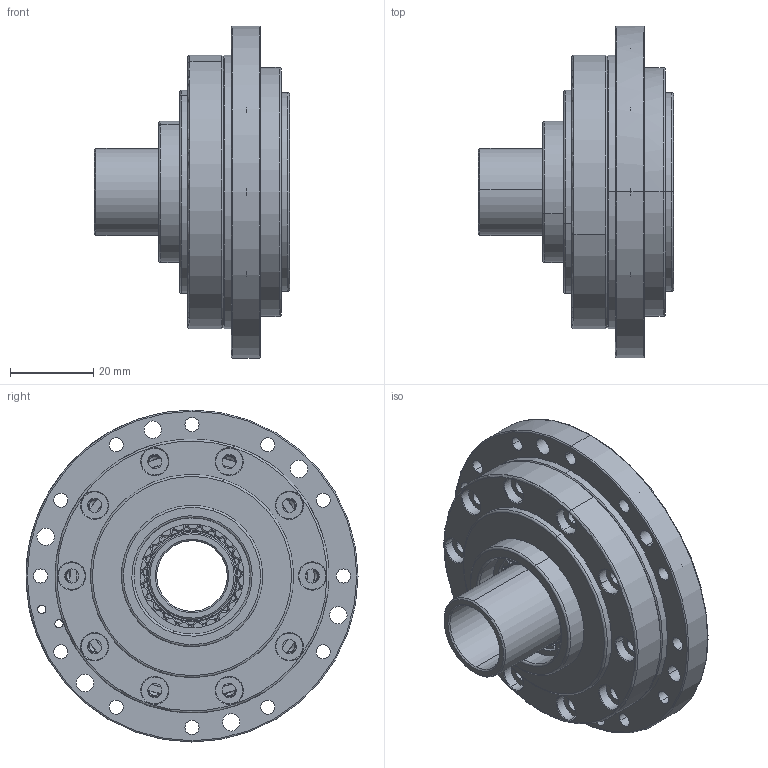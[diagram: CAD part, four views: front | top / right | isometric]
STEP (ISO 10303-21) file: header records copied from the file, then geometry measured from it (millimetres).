
FILE_DESCRIPTION (( 'STEP AP203' ), '1' );
FILE_NAME ('17 （80）.ST', '2025-06-26T00:38:43', ( '' ), ( '' ), 'SwSTEP 2.0', 'SolidWorks 2024', '' );
FILE_SCHEMA (( 'CONFIG_CONTROL_DESIGN' ));
Length unit declared in the file: millimetre
Products named in the file (1): 17  （80）
Bounding box: 47 x 80 x 80 mm (x, y, z)
Volume: 59069.3 mm3; surface area: 48145 mm2
Topology: 140 solids, 140 shells, 1489 faces, 3023 edges, 1835 vertices
Faces by surface type: cylinder 508, plane 390, torus 343, cone 142, bspline 106
Entity records: 41696 total; most frequent: CARTESIAN_POINT 10111, DIRECTION 7386, ORIENTED_EDGE 6014, AXIS2_PLACEMENT_3D 3312, EDGE_CURVE 3007, CIRCLE 1928, VERTEX_POINT 1835, EDGE_LOOP 1598
